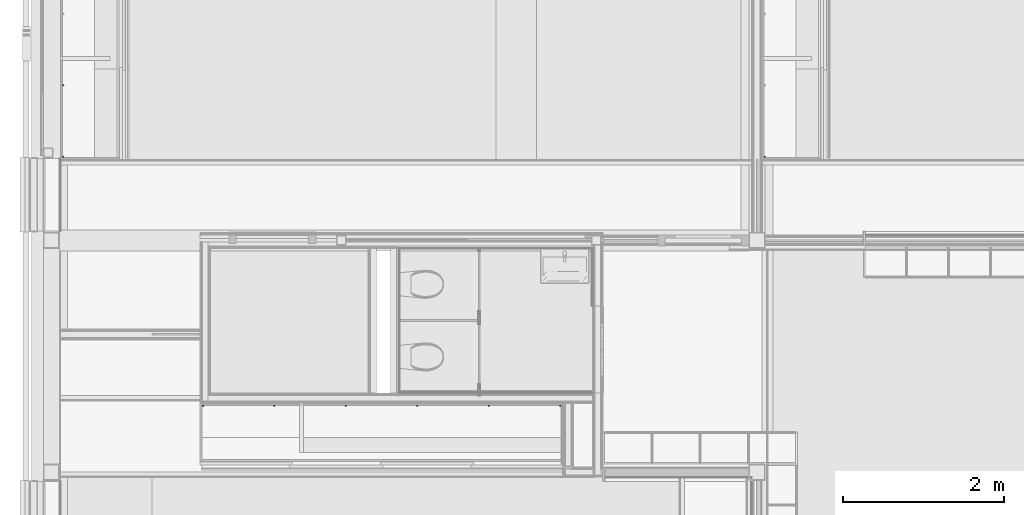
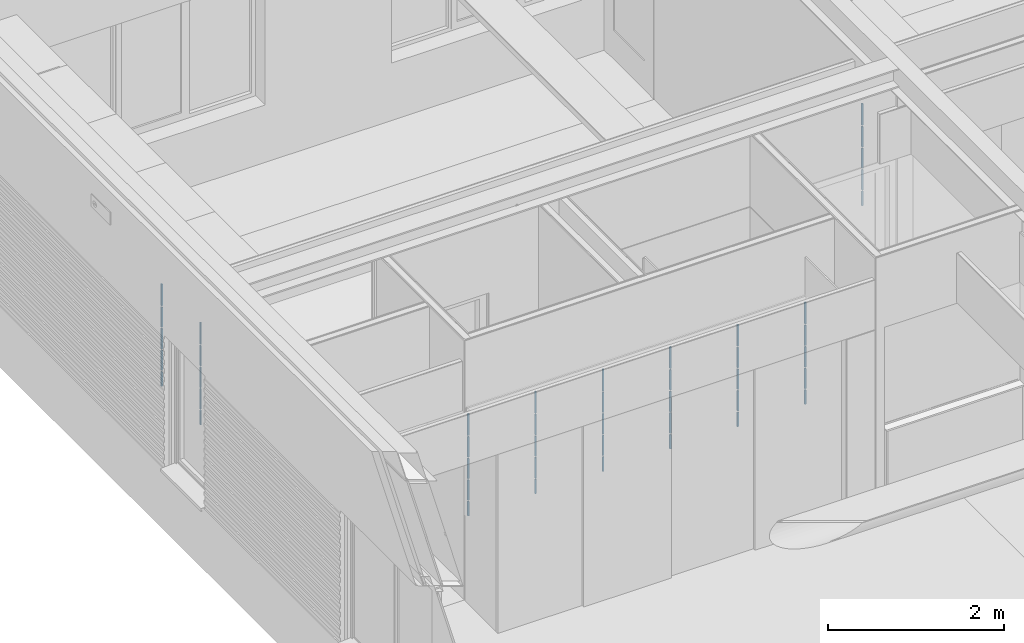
# One storey, part 8 of 137: 9 columns.
"""IFC2X3 building model written with IfcOpenShell, lengths in millimetres."""

from ifc_helpers import new_model, entity, si_unit, converted_unit, derived_unit, money_unit, direction, frame, origin_with_axes, place, context, subcontext, project, spatial, faceted_brep, material, type_object, element, save


model = new_model("IFC2X3")

# Units and contexts
model_context = context("Model", 3, precision=0.01, world=origin_with_axes(), true_north=direction((0.0, 1.0)))
body_context = subcontext(model_context, "Body", "Model", "MODEL_VIEW")
ifc_project = project(units=[si_unit("LENGTHUNIT", "METRE", prefix="MILLI"), si_unit("AREAUNIT", "SQUARE_METRE"), si_unit("VOLUMEUNIT", "CUBIC_METRE"), converted_unit("PLANEANGLEUNIT", "DEGREE", entity("IfcPlaneAngleMeasure", 0.0174532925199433), si_unit("PLANEANGLEUNIT", "RADIAN"), dimensions=[0, 0, 0, 0, 0, 0, 0]), money_unit("EUR"), converted_unit("TIMEUNIT", "Year", entity("IfcTimeMeasure", 31556926.0), si_unit("TIMEUNIT", "SECOND"), dimensions=[0, 0, 1, 0, 0, 0, 0]), si_unit("MASSUNIT", "GRAM", prefix="KILO"), si_unit("THERMODYNAMICTEMPERATUREUNIT", "DEGREE_CELSIUS"), si_unit("LUMINOUSINTENSITYUNIT", "LUMEN"), si_unit("ENERGYUNIT", "JOULE", prefix="MEGA"), derived_unit("THERMALCONDUCTANCEUNIT", [(si_unit("POWERUNIT", "WATT"), 1), (si_unit("LENGTHUNIT", "METRE"), -1), (si_unit("THERMODYNAMICTEMPERATUREUNIT", "KELVIN"), -1)]), derived_unit("SPECIFICHEATCAPACITYUNIT", [(si_unit("ENERGYUNIT", "JOULE"), 1), (si_unit("MASSUNIT", "GRAM", prefix="KILO"), -1), (si_unit("THERMODYNAMICTEMPERATUREUNIT", "KELVIN"), -1)]), derived_unit("MASSDENSITYUNIT", [(si_unit("MASSUNIT", "GRAM", prefix="KILO"), 1), (si_unit("VOLUMEUNIT", "CUBIC_METRE"), -1)])], contexts=[model_context])

# Site, building, storey
site_placement = place(None, origin_with_axes())
site = spatial("IfcSite", under=ifc_project, at=site_placement, Name="Site", CompositionType="ELEMENT")
building_placement = place(site_placement, origin_with_axes())
building = spatial("IfcBuilding", under=site, at=building_placement, Name="Naam gebouw", CompositionType="ELEMENT")
storey_placement = place(building_placement, frame((0.0, 0.0, 3960.0), z_axis=(0.0, 0.0, 1.0), x_axis=(1.0, 0.0, 0.0)))
storey = spatial("IfcBuildingStorey", under=building, at=storey_placement, Name="1e verdieping", CompositionType="ELEMENT", Elevation=3960.0)

# Columns
ifc_material = material(Name="ALG - ALGEMEEN")
column_type = type_object("IfcColumnType", Name="ALG - ALGEMEEN 20 x 20", PredefinedType="COLUMN")
column_1_placement = place(storey_placement, frame((8942.500000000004, 23362.99984707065, 1182.0), z_axis=(0.0, 0.0, 1.0), x_axis=(1.0, 0.0, 0.0)))
element("IfcColumn", 1, at=column_1_placement, inside=storey, type_object=column_type, material=ifc_material, Name="28_Kolom-x", ObjectType="COLUMN", context=body_context, shape_type="Brep", body=[
    faceted_brep([(-8.000000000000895, 9.99999999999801, 0.0), (-8.000000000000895, 9.99999999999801, 198.0000000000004), (9.999999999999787, 9.99999999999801, 198.0000000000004), (9.999999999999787, 9.99999999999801, 0.0), (-8.000000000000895, -10.00000000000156, 0.0), (-8.000000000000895, -10.00000000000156, 198.0000000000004), (9.999999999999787, -10.00000000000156, 198.0000000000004), (9.999999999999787, -10.00000000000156, 0.0)], [[[0, 1, 2, 3]], [[4, 5, 1, 0]], [[5, 6, 2, 1]], [[3, 2, 6, 7]], [[3, 7, 4, 0]], [[7, 6, 5, 4]]]),
    faceted_brep([(9.999999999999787, -10.00000000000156, 1418.000000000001), (9.999999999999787, -10.00000000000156, 1118.0), (9.999999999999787, 9.99999999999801, 1118.0), (9.999999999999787, 9.99999999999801, 1418.000000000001), (-8.000000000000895, -10.00000000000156, 1418.000000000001), (-8.000000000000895, -10.00000000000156, 1118.0), (-8.000000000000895, 9.99999999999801, 1118.0), (-8.000000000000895, 9.99999999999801, 1418.000000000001)], [[[0, 1, 2, 3]], [[4, 5, 1, 0]], [[5, 6, 2, 1]], [[3, 2, 6, 7]], [[0, 3, 7, 4]], [[7, 6, 5, 4]]]),
    faceted_brep([(9.999999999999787, -10.00000000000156, 1098.000000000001), (9.999999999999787, -10.00000000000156, 818.0000000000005), (9.999999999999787, 9.99999999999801, 818.0000000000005), (9.999999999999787, 9.99999999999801, 1098.000000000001), (-8.000000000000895, -10.00000000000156, 1098.000000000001), (-8.000000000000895, -10.00000000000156, 818.0000000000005), (-8.000000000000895, 9.99999999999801, 818.0000000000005), (-8.000000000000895, 9.99999999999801, 1098.000000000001)], [[[0, 1, 2, 3]], [[4, 5, 1, 0]], [[5, 6, 2, 1]], [[3, 2, 6, 7]], [[4, 0, 3, 7]], [[7, 6, 5, 4]]]),
    faceted_brep([(9.999999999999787, -10.00000000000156, 798.0000000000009), (9.999999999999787, -10.00000000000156, 518.0000000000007), (9.999999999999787, 9.99999999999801, 518.0000000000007), (9.999999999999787, 9.99999999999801, 798.0000000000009), (-8.000000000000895, -10.00000000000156, 798.0000000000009), (-8.000000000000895, -10.00000000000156, 518.0000000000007), (-8.000000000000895, 9.99999999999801, 518.0000000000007), (-8.000000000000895, 9.99999999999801, 798.0000000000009)], [[[0, 1, 2, 3]], [[4, 5, 1, 0]], [[5, 6, 2, 1]], [[3, 2, 6, 7]], [[4, 0, 3, 7]], [[7, 6, 5, 4]]]),
    faceted_brep([(9.999999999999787, -10.00000000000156, 498.0000000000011), (9.999999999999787, -10.00000000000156, 218.0), (9.999999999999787, 9.99999999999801, 218.0), (9.999999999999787, 9.99999999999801, 498.0000000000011), (-8.000000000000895, -10.00000000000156, 498.0000000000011), (-8.000000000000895, -10.00000000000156, 218.0), (-8.000000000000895, 9.99999999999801, 218.0), (-8.000000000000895, 9.99999999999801, 498.0000000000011)], [[[0, 1, 2, 3]], [[4, 5, 1, 0]], [[5, 6, 2, 1]], [[3, 2, 6, 7]], [[4, 0, 3, 7]], [[7, 6, 5, 4]]]),
])
column_2_placement = place(storey_placement, frame((244.0000000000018, 23362.99984707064, 1182.0), z_axis=(0.0, 0.0, 1.0), x_axis=(1.0, 0.0, 0.0)))
element("IfcColumn", 2, at=column_2_placement, inside=storey, type_object=column_type, material=ifc_material, Name="28_Kolom-x", ObjectType="COLUMN", context=body_context, shape_type="Brep", body=[
    faceted_brep([(-8.000000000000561, 9.99999999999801, 0.0), (-8.000000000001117, 9.99999999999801, 198.0000000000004), (10.00000000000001, 9.99999999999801, 198.0000000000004), (10.00000000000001, 9.99999999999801, 0.0), (-8.000000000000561, -10.00000000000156, 0.0), (-8.000000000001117, -10.00000000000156, 198.0000000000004), (10.00000000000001, -10.00000000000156, 198.0000000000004), (10.00000000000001, -10.00000000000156, 0.0)], [[[0, 1, 2, 3]], [[4, 5, 1, 0]], [[5, 6, 2, 1]], [[3, 2, 6, 7]], [[3, 7, 4, 0]], [[7, 6, 5, 4]]]),
    faceted_brep([(10.00000000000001, -10.00000000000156, 1418.000000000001), (10.00000000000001, -10.00000000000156, 1118.0), (10.00000000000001, 9.99999999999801, 1118.0), (10.00000000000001, 9.99999999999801, 1418.000000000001), (-8.000000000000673, -10.00000000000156, 1418.000000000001), (-8.000000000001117, -10.00000000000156, 1118.0), (-8.000000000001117, 9.99999999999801, 1118.0), (-8.000000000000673, 9.99999999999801, 1418.000000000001)], [[[0, 1, 2, 3]], [[4, 5, 1, 0]], [[5, 6, 2, 1]], [[3, 2, 6, 7]], [[0, 3, 7, 4]], [[7, 6, 5, 4]]]),
    faceted_brep([(10.00000000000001, -10.00000000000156, 1098.000000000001), (10.00000000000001, -10.00000000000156, 818.0000000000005), (10.00000000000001, 9.99999999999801, 818.0000000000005), (10.00000000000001, 9.99999999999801, 1098.000000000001), (-8.000000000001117, -10.00000000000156, 1098.000000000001), (-8.000000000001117, -10.00000000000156, 818.0000000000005), (-8.000000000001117, 9.99999999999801, 818.0000000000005), (-8.000000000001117, 9.99999999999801, 1098.000000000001)], [[[0, 1, 2, 3]], [[4, 5, 1, 0]], [[5, 6, 2, 1]], [[3, 2, 6, 7]], [[4, 0, 3, 7]], [[7, 6, 5, 4]]]),
    faceted_brep([(10.00000000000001, -10.00000000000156, 798.0000000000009), (10.00000000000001, -10.00000000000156, 518.0000000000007), (10.00000000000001, 9.99999999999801, 518.0000000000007), (10.00000000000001, 9.99999999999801, 798.0000000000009), (-8.000000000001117, -10.00000000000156, 798.0000000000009), (-8.000000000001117, -10.00000000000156, 518.0000000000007), (-8.000000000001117, 9.99999999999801, 518.0000000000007), (-8.000000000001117, 9.99999999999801, 798.0000000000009)], [[[0, 1, 2, 3]], [[4, 5, 1, 0]], [[5, 6, 2, 1]], [[3, 2, 6, 7]], [[4, 0, 3, 7]], [[7, 6, 5, 4]]]),
    faceted_brep([(10.00000000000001, -10.00000000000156, 498.0000000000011), (10.00000000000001, -10.00000000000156, 218.0), (10.00000000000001, 9.99999999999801, 218.0), (10.00000000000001, 9.99999999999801, 498.0000000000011), (-8.000000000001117, -10.00000000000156, 498.0000000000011), (-8.000000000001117, -10.00000000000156, 218.0), (-8.000000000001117, 9.99999999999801, 218.0), (-8.000000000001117, 9.99999999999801, 498.0000000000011)], [[[0, 1, 2, 3]], [[4, 5, 1, 0]], [[5, 6, 2, 1]], [[3, 2, 6, 7]], [[4, 0, 3, 7]], [[7, 6, 5, 4]]]),
])
column_3_placement = place(storey_placement, frame((244.0000000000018, 24248.99984707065, 1182.0), z_axis=(0.0, 0.0, 1.0), x_axis=(1.0, 0.0, 0.0)))
element("IfcColumn", 3, at=column_3_placement, inside=storey, type_object=column_type, material=ifc_material, Name="28_Kolom-x", ObjectType="COLUMN", context=body_context, shape_type="Brep", body=[
    faceted_brep([(-8.00000000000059, 9.99999999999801, 0.0), (-8.000000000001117, 9.99999999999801, 198.0000000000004), (10.00000000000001, 9.99999999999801, 198.0000000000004), (10.00000000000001, 9.99999999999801, 0.0), (-8.00000000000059, -10.00000000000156, 0.0), (-8.000000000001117, -10.00000000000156, 198.0000000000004), (10.00000000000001, -10.00000000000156, 198.0000000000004), (10.00000000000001, -10.00000000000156, 0.0)], [[[0, 1, 2, 3]], [[4, 5, 1, 0]], [[5, 6, 2, 1]], [[3, 2, 6, 7]], [[3, 7, 4, 0]], [[7, 6, 5, 4]]]),
    faceted_brep([(10.00000000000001, -10.00000000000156, 1418.000000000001), (10.00000000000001, -10.00000000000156, 1118.0), (10.00000000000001, 9.99999999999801, 1118.0), (10.00000000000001, 9.99999999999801, 1418.000000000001), (-8.000000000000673, -10.00000000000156, 1418.000000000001), (-8.000000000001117, -10.00000000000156, 1118.0), (-8.000000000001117, 9.99999999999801, 1118.0), (-8.000000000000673, 9.99999999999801, 1418.000000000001)], [[[0, 1, 2, 3]], [[4, 5, 1, 0]], [[5, 6, 2, 1]], [[3, 2, 6, 7]], [[0, 3, 7, 4]], [[7, 6, 5, 4]]]),
    faceted_brep([(10.00000000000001, -10.00000000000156, 1098.000000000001), (10.00000000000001, -10.00000000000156, 818.0000000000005), (10.00000000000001, 9.99999999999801, 818.0000000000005), (10.00000000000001, 9.99999999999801, 1098.000000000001), (-8.000000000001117, -10.00000000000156, 1098.000000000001), (-8.000000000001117, -10.00000000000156, 818.0000000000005), (-8.000000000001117, 9.99999999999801, 818.0000000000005), (-8.000000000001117, 9.99999999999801, 1098.000000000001)], [[[0, 1, 2, 3]], [[4, 5, 1, 0]], [[5, 6, 2, 1]], [[3, 2, 6, 7]], [[4, 0, 3, 7]], [[7, 6, 5, 4]]]),
    faceted_brep([(10.00000000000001, -10.00000000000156, 798.0000000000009), (10.00000000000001, -10.00000000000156, 518.0000000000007), (10.00000000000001, 9.99999999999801, 518.0000000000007), (10.00000000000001, 9.99999999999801, 798.0000000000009), (-8.000000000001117, -10.00000000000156, 798.0000000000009), (-8.000000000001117, -10.00000000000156, 518.0000000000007), (-8.000000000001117, 9.99999999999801, 518.0000000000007), (-8.000000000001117, 9.99999999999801, 798.0000000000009)], [[[0, 1, 2, 3]], [[4, 5, 1, 0]], [[5, 6, 2, 1]], [[3, 2, 6, 7]], [[4, 0, 3, 7]], [[7, 6, 5, 4]]]),
    faceted_brep([(10.00000000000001, -10.00000000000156, 498.0000000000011), (10.00000000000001, -10.00000000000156, 218.0), (10.00000000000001, 9.99999999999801, 218.0), (10.00000000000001, 9.99999999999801, 498.0000000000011), (-8.000000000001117, -10.00000000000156, 498.0000000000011), (-8.000000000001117, -10.00000000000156, 218.0), (-8.000000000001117, 9.99999999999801, 218.0), (-8.000000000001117, 9.99999999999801, 498.0000000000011)], [[[0, 1, 2, 3]], [[4, 5, 1, 0]], [[5, 6, 2, 1]], [[3, 2, 6, 7]], [[4, 0, 3, 7]], [[7, 6, 5, 4]]]),
])
column_4_placement = place(storey_placement, frame((3751.000000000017, 20274.97621406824, 1182.0), z_axis=(0.0, 0.0, 1.0), x_axis=(0.0, -1.0, 0.0)))
element("IfcColumn", 4, at=column_4_placement, inside=storey, type_object=column_type, material=ifc_material, Name="28_Kolom-x", ObjectType="COLUMN", context=body_context, shape_type="Brep", body=[
    faceted_brep([(-8.000000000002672, -9.999999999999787, 0.0), (-8.000000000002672, -9.999999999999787, 198.0000000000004), (-8.000000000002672, 10.00000000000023, 198.0000000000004), (-8.000000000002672, 10.00000000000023, 0.0), (9.99999999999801, -9.999999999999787, 0.0), (9.99999999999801, -9.999999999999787, 198.0000000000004), (9.99999999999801, 10.00000000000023, 198.0000000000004), (9.99999999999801, 10.00000000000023, 0.0)], [[[0, 1, 2, 3]], [[4, 5, 1, 0]], [[5, 6, 2, 1]], [[3, 2, 6, 7]], [[7, 4, 0, 3]], [[7, 6, 5, 4]]]),
    faceted_brep([(9.99999999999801, 10.00000000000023, 1418.000000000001), (9.99999999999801, 10.00000000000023, 1118.0), (-8.000000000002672, 10.00000000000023, 1118.0), (-8.000000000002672, 10.00000000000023, 1418.000000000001), (9.99999999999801, -9.999999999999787, 1418.000000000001), (9.99999999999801, -9.999999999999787, 1118.0), (-8.000000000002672, -9.999999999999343, 1118.0), (-8.000000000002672, -9.999999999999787, 1418.000000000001)], [[[0, 1, 2, 3]], [[4, 5, 1, 0]], [[5, 6, 2, 1]], [[3, 2, 6, 7]], [[4, 0, 3, 7]], [[7, 6, 5, 4]]]),
    faceted_brep([(9.99999999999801, 10.00000000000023, 1098.000000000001), (9.99999999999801, 10.00000000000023, 818.0000000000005), (-8.000000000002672, 10.00000000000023, 818.0000000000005), (-8.000000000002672, 10.00000000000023, 1098.000000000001), (9.99999999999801, -9.999999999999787, 1098.000000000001), (9.99999999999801, -9.999999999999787, 818.0000000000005), (-8.000000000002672, -9.999999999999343, 818.0000000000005), (-8.000000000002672, -9.999999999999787, 1098.000000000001)], [[[0, 1, 2, 3]], [[4, 5, 1, 0]], [[5, 6, 2, 1]], [[3, 2, 6, 7]], [[4, 0, 3, 7]], [[7, 6, 5, 4]]]),
    faceted_brep([(9.99999999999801, 10.00000000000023, 798.0000000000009), (9.99999999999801, 10.00000000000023, 518.0000000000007), (-8.000000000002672, 10.00000000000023, 518.0000000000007), (-8.000000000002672, 10.00000000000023, 798.0000000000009), (9.99999999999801, -9.999999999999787, 798.0000000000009), (9.99999999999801, -9.999999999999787, 518.0000000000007), (-8.000000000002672, -9.999999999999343, 518.0000000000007), (-8.000000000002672, -9.999999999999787, 798.0000000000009)], [[[0, 1, 2, 3]], [[4, 5, 1, 0]], [[5, 6, 2, 1]], [[3, 2, 6, 7]], [[4, 0, 3, 7]], [[7, 6, 5, 4]]]),
    faceted_brep([(9.99999999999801, 10.00000000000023, 498.0000000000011), (9.99999999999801, 10.00000000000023, 218.0), (-8.000000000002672, 10.00000000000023, 218.0), (-8.000000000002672, 10.00000000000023, 498.0000000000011), (9.99999999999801, -9.999999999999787, 498.0000000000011), (9.99999999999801, -9.999999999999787, 218.0), (-8.000000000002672, -9.999999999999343, 218.0), (-8.000000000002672, -9.999999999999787, 498.0000000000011)], [[[0, 1, 2, 3]], [[4, 5, 1, 0]], [[5, 6, 2, 1]], [[3, 2, 6, 7]], [[4, 0, 3, 7]], [[7, 6, 5, 4]]]),
])
column_5_placement = place(storey_placement, frame((4637.000000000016, 20274.97621406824, 1182.0), z_axis=(0.0, 0.0, 1.0), x_axis=(0.0, -1.0, 0.0)))
element("IfcColumn", 5, at=column_5_placement, inside=storey, type_object=column_type, material=ifc_material, Name="28_Kolom-x", ObjectType="COLUMN", context=body_context, shape_type="Brep", body=[
    faceted_brep([(-8.000000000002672, -9.999999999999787, 0.0), (-8.000000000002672, -9.999999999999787, 198.0000000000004), (-8.000000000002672, 9.999999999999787, 198.0000000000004), (-8.000000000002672, 9.999999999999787, 0.0), (9.99999999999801, -9.999999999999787, 0.0), (9.99999999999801, -9.999999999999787, 198.0000000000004), (9.99999999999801, 9.999999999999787, 198.0000000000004), (9.99999999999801, 9.999999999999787, 0.0)], [[[0, 1, 2, 3]], [[4, 5, 1, 0]], [[5, 6, 2, 1]], [[3, 2, 6, 7]], [[7, 4, 0, 3]], [[7, 6, 5, 4]]]),
    faceted_brep([(9.99999999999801, 9.999999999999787, 1418.000000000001), (9.99999999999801, 9.999999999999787, 1118.0), (-8.000000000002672, 9.999999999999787, 1118.0), (-8.000000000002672, 9.999999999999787, 1418.000000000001), (9.99999999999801, -9.999999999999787, 1418.000000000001), (9.99999999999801, -9.999999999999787, 1118.0), (-8.000000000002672, -9.999999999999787, 1118.0), (-8.000000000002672, -9.999999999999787, 1418.000000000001)], [[[0, 1, 2, 3]], [[4, 5, 1, 0]], [[5, 6, 2, 1]], [[3, 2, 6, 7]], [[4, 0, 3, 7]], [[7, 6, 5, 4]]]),
    faceted_brep([(9.99999999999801, 9.999999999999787, 1098.000000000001), (9.99999999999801, 9.999999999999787, 818.0000000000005), (-8.000000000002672, 9.999999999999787, 818.0000000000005), (-8.000000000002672, 9.999999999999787, 1098.000000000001), (9.99999999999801, -9.999999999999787, 1098.000000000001), (9.99999999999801, -9.999999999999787, 818.0000000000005), (-8.000000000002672, -9.999999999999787, 818.0000000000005), (-8.000000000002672, -9.999999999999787, 1098.000000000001)], [[[0, 1, 2, 3]], [[4, 5, 1, 0]], [[5, 6, 2, 1]], [[3, 2, 6, 7]], [[4, 0, 3, 7]], [[7, 6, 5, 4]]]),
    faceted_brep([(9.99999999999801, 9.999999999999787, 798.0000000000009), (9.99999999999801, 9.999999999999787, 518.0000000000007), (-8.000000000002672, 9.999999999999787, 518.0000000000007), (-8.000000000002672, 9.999999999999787, 798.0000000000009), (9.99999999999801, -9.999999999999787, 798.0000000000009), (9.99999999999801, -9.999999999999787, 518.0000000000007), (-8.000000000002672, -9.999999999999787, 518.0000000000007), (-8.000000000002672, -9.999999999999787, 798.0000000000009)], [[[0, 1, 2, 3]], [[4, 5, 1, 0]], [[5, 6, 2, 1]], [[3, 2, 6, 7]], [[4, 0, 3, 7]], [[7, 6, 5, 4]]]),
    faceted_brep([(9.99999999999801, 9.999999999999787, 498.0000000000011), (9.99999999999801, 9.999999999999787, 218.0), (-8.000000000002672, 9.999999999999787, 218.0), (-8.000000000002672, 9.999999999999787, 498.0000000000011), (9.99999999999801, -9.999999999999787, 498.0000000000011), (9.99999999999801, -9.999999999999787, 218.0), (-8.000000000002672, -9.999999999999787, 218.0), (-8.000000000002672, -9.999999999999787, 498.0000000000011)], [[[0, 1, 2, 3]], [[4, 5, 1, 0]], [[5, 6, 2, 1]], [[3, 2, 6, 7]], [[4, 0, 3, 7]], [[7, 6, 5, 4]]]),
])
column_6_placement = place(storey_placement, frame((5523.000000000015, 20274.97621406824, 1182.0), z_axis=(0.0, 0.0, 1.0), x_axis=(0.0, -1.0, 0.0)))
element("IfcColumn", 6, at=column_6_placement, inside=storey, type_object=column_type, material=ifc_material, Name="28_Kolom-x", ObjectType="COLUMN", context=body_context, shape_type="Brep", body=[
    faceted_brep([(-8.000000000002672, -9.999999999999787, 0.0), (-8.000000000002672, -9.999999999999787, 198.0000000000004), (-8.000000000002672, 9.999999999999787, 198.0000000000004), (-8.000000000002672, 9.999999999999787, 0.0), (9.99999999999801, -9.999999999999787, 0.0), (9.99999999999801, -9.999999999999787, 198.0000000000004), (9.99999999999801, 9.999999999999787, 198.0000000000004), (9.99999999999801, 9.999999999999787, 0.0)], [[[0, 1, 2, 3]], [[4, 5, 1, 0]], [[5, 6, 2, 1]], [[3, 2, 6, 7]], [[7, 4, 0, 3]], [[7, 6, 5, 4]]]),
    faceted_brep([(9.99999999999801, 9.999999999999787, 1418.000000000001), (9.99999999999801, 9.999999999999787, 1118.0), (-8.000000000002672, 9.999999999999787, 1118.0), (-8.000000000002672, 9.999999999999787, 1418.000000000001), (9.99999999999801, -9.999999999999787, 1418.000000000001), (9.99999999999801, -9.999999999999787, 1118.0), (-8.000000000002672, -9.999999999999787, 1118.0), (-8.000000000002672, -9.999999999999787, 1418.000000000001)], [[[0, 1, 2, 3]], [[4, 5, 1, 0]], [[5, 6, 2, 1]], [[3, 2, 6, 7]], [[4, 0, 3, 7]], [[7, 6, 5, 4]]]),
    faceted_brep([(9.99999999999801, 9.999999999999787, 1098.000000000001), (9.99999999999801, 9.999999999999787, 818.0000000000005), (-8.000000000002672, 9.999999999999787, 818.0000000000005), (-8.000000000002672, 9.999999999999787, 1098.000000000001), (9.99999999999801, -9.999999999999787, 1098.000000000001), (9.99999999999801, -9.999999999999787, 818.0000000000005), (-8.000000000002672, -9.999999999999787, 818.0000000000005), (-8.000000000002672, -9.999999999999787, 1098.000000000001)], [[[0, 1, 2, 3]], [[4, 5, 1, 0]], [[5, 6, 2, 1]], [[3, 2, 6, 7]], [[4, 0, 3, 7]], [[7, 6, 5, 4]]]),
    faceted_brep([(9.99999999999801, 9.999999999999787, 798.0000000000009), (9.99999999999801, 9.999999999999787, 518.0000000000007), (-8.000000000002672, 9.999999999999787, 518.0000000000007), (-8.000000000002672, 9.999999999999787, 798.0000000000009), (9.99999999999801, -9.999999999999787, 798.0000000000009), (9.99999999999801, -9.999999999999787, 518.0000000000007), (-8.000000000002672, -9.999999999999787, 518.0000000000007), (-8.000000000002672, -9.999999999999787, 798.0000000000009)], [[[0, 1, 2, 3]], [[4, 5, 1, 0]], [[5, 6, 2, 1]], [[3, 2, 6, 7]], [[4, 0, 3, 7]], [[7, 6, 5, 4]]]),
    faceted_brep([(9.99999999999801, 9.999999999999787, 498.0000000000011), (9.99999999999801, 9.999999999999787, 218.0), (-8.000000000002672, 9.999999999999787, 218.0), (-8.000000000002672, 9.999999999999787, 498.0000000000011), (9.99999999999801, -9.999999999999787, 498.0000000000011), (9.99999999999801, -9.999999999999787, 218.0), (-8.000000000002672, -9.999999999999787, 218.0), (-8.000000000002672, -9.999999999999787, 498.0000000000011)], [[[0, 1, 2, 3]], [[4, 5, 1, 0]], [[5, 6, 2, 1]], [[3, 2, 6, 7]], [[4, 0, 3, 7]], [[7, 6, 5, 4]]]),
])
column_7_placement = place(storey_placement, frame((1979.000000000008, 20274.97621406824, 1182.0), z_axis=(0.0, 0.0, 1.0), x_axis=(0.0, -1.0, 0.0)))
element("IfcColumn", 7, at=column_7_placement, inside=storey, type_object=column_type, material=ifc_material, Name="28_Kolom-x", ObjectType="COLUMN", context=body_context, shape_type="Brep", body=[
    faceted_brep([(-8.000000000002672, -10.00000000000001, 0.0), (-8.000000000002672, -10.00000000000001, 198.0000000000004), (-8.000000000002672, 10.00000000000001, 198.0000000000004), (-8.000000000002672, 10.00000000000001, 0.0), (9.99999999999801, -10.00000000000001, 0.0), (9.99999999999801, -10.00000000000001, 198.0000000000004), (9.99999999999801, 10.00000000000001, 198.0000000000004), (9.99999999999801, 10.00000000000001, 0.0)], [[[0, 1, 2, 3]], [[4, 5, 1, 0]], [[5, 6, 2, 1]], [[3, 2, 6, 7]], [[7, 4, 0, 3]], [[7, 6, 5, 4]]]),
    faceted_brep([(9.99999999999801, 10.00000000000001, 1418.000000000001), (9.99999999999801, 10.00000000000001, 1118.0), (-8.000000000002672, 9.999999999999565, 1118.0), (-8.000000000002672, 10.00000000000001, 1418.000000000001), (9.99999999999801, -10.00000000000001, 1418.000000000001), (9.99999999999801, -10.00000000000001, 1118.0), (-8.000000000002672, -10.00000000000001, 1118.0), (-8.000000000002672, -10.00000000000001, 1418.000000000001)], [[[0, 1, 2, 3]], [[4, 5, 1, 0]], [[5, 6, 2, 1]], [[3, 2, 6, 7]], [[4, 0, 3, 7]], [[7, 6, 5, 4]]]),
    faceted_brep([(9.99999999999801, 10.00000000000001, 1098.000000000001), (9.99999999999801, 10.00000000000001, 818.0000000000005), (-8.000000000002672, 9.999999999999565, 818.0000000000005), (-8.000000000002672, 10.00000000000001, 1098.000000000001), (9.99999999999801, -10.00000000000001, 1098.000000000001), (9.99999999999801, -10.00000000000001, 818.0000000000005), (-8.000000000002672, -10.00000000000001, 818.0000000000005), (-8.000000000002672, -10.00000000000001, 1098.000000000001)], [[[0, 1, 2, 3]], [[4, 5, 1, 0]], [[5, 6, 2, 1]], [[3, 2, 6, 7]], [[4, 0, 3, 7]], [[7, 6, 5, 4]]]),
    faceted_brep([(9.99999999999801, 10.00000000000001, 798.0000000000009), (9.99999999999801, 10.00000000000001, 518.0000000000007), (-8.000000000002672, 9.999999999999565, 518.0000000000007), (-8.000000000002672, 10.00000000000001, 798.0000000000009), (9.99999999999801, -10.00000000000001, 798.0000000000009), (9.99999999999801, -10.00000000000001, 518.0000000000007), (-8.000000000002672, -10.00000000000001, 518.0000000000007), (-8.000000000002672, -10.00000000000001, 798.0000000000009)], [[[0, 1, 2, 3]], [[4, 5, 1, 0]], [[5, 6, 2, 1]], [[3, 2, 6, 7]], [[4, 0, 3, 7]], [[7, 6, 5, 4]]]),
    faceted_brep([(9.99999999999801, 10.00000000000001, 498.0000000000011), (9.99999999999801, 10.00000000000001, 218.0), (-8.000000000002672, 9.999999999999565, 218.0), (-8.000000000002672, 10.00000000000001, 498.0000000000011), (9.99999999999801, -10.00000000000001, 498.0000000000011), (9.99999999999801, -10.00000000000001, 218.0), (-8.000000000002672, -10.00000000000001, 218.0), (-8.000000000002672, -10.00000000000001, 498.0000000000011)], [[[0, 1, 2, 3]], [[4, 5, 1, 0]], [[5, 6, 2, 1]], [[3, 2, 6, 7]], [[4, 0, 3, 7]], [[7, 6, 5, 4]]]),
])
column_8_placement = place(storey_placement, frame((6409.000000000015, 20274.97621406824, 1182.0), z_axis=(0.0, 0.0, 1.0), x_axis=(0.0, -1.0, 0.0)))
element("IfcColumn", 8, at=column_8_placement, inside=storey, type_object=column_type, material=ifc_material, Name="28_Kolom-x", ObjectType="COLUMN", context=body_context, shape_type="Brep", body=[
    faceted_brep([(-8.000000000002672, -9.999999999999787, 0.0), (-8.000000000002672, -9.999999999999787, 198.0000000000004), (-8.000000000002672, 9.999999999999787, 198.0000000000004), (-8.000000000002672, 9.999999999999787, 0.0), (9.99999999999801, -9.999999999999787, 0.0), (9.99999999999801, -9.999999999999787, 198.0000000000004), (9.99999999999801, 9.999999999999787, 198.0000000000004), (9.99999999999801, 9.999999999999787, 0.0)], [[[0, 1, 2, 3]], [[4, 5, 1, 0]], [[5, 6, 2, 1]], [[3, 2, 6, 7]], [[7, 4, 0, 3]], [[7, 6, 5, 4]]]),
    faceted_brep([(9.99999999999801, 9.999999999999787, 1418.000000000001), (9.99999999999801, 9.999999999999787, 1118.0), (-8.000000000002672, 9.999999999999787, 1118.0), (-8.000000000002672, 9.999999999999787, 1418.000000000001), (9.99999999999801, -9.999999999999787, 1418.000000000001), (9.99999999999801, -9.999999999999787, 1118.0), (-8.000000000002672, -9.999999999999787, 1118.0), (-8.000000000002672, -9.999999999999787, 1418.000000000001)], [[[0, 1, 2, 3]], [[4, 5, 1, 0]], [[5, 6, 2, 1]], [[3, 2, 6, 7]], [[4, 0, 3, 7]], [[7, 6, 5, 4]]]),
    faceted_brep([(9.99999999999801, 9.999999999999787, 1098.000000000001), (9.99999999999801, 9.999999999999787, 818.0000000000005), (-8.000000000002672, 9.999999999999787, 818.0000000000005), (-8.000000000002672, 9.999999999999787, 1098.000000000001), (9.99999999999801, -9.999999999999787, 1098.000000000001), (9.99999999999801, -9.999999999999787, 818.0000000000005), (-8.000000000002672, -9.999999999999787, 818.0000000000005), (-8.000000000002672, -9.999999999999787, 1098.000000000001)], [[[0, 1, 2, 3]], [[4, 5, 1, 0]], [[5, 6, 2, 1]], [[3, 2, 6, 7]], [[4, 0, 3, 7]], [[7, 6, 5, 4]]]),
    faceted_brep([(9.99999999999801, 9.999999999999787, 798.0000000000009), (9.99999999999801, 9.999999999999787, 518.0000000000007), (-8.000000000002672, 9.999999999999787, 518.0000000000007), (-8.000000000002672, 9.999999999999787, 798.0000000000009), (9.99999999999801, -9.999999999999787, 798.0000000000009), (9.99999999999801, -9.999999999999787, 518.0000000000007), (-8.000000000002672, -9.999999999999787, 518.0000000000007), (-8.000000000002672, -9.999999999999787, 798.0000000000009)], [[[0, 1, 2, 3]], [[4, 5, 1, 0]], [[5, 6, 2, 1]], [[3, 2, 6, 7]], [[4, 0, 3, 7]], [[7, 6, 5, 4]]]),
    faceted_brep([(9.99999999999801, 9.999999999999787, 498.0000000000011), (9.99999999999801, 9.999999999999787, 218.0), (-8.000000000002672, 9.999999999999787, 218.0), (-8.000000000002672, 9.999999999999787, 498.0000000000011), (9.99999999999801, -9.999999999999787, 498.0000000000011), (9.99999999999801, -9.999999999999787, 218.0), (-8.000000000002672, -9.999999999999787, 218.0), (-8.000000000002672, -9.999999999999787, 498.0000000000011)], [[[0, 1, 2, 3]], [[4, 5, 1, 0]], [[5, 6, 2, 1]], [[3, 2, 6, 7]], [[4, 0, 3, 7]], [[7, 6, 5, 4]]]),
])
column_9_placement = place(storey_placement, frame((2865.000000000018, 20274.97621406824, 1182.0), z_axis=(0.0, 0.0, 1.0), x_axis=(0.0, -1.0, 0.0)))
element("IfcColumn", 9, at=column_9_placement, inside=storey, type_object=column_type, material=ifc_material, Name="28_Kolom-x", ObjectType="COLUMN", context=body_context, shape_type="Brep", body=[
    faceted_brep([(-8.000000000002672, -9.999999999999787, 0.0), (-8.000000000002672, -9.999999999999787, 198.0000000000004), (-8.000000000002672, 10.00000000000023, 198.0000000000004), (-8.000000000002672, 10.00000000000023, 0.0), (9.99999999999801, -9.999999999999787, 0.0), (9.99999999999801, -9.999999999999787, 198.0000000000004), (9.99999999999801, 10.00000000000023, 198.0000000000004), (9.99999999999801, 10.00000000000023, 0.0)], [[[0, 1, 2, 3]], [[4, 5, 1, 0]], [[5, 6, 2, 1]], [[3, 2, 6, 7]], [[7, 4, 0, 3]], [[7, 6, 5, 4]]]),
    faceted_brep([(9.99999999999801, 10.00000000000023, 1418.000000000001), (9.99999999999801, 10.00000000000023, 1118.0), (-8.000000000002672, 9.999999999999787, 1118.0), (-8.000000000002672, 10.00000000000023, 1418.000000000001), (9.99999999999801, -9.999999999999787, 1418.000000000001), (9.99999999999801, -9.999999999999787, 1118.0), (-8.000000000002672, -9.999999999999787, 1118.0), (-8.000000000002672, -9.999999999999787, 1418.000000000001)], [[[0, 1, 2, 3]], [[4, 5, 1, 0]], [[5, 6, 2, 1]], [[3, 2, 6, 7]], [[4, 0, 3, 7]], [[7, 6, 5, 4]]]),
    faceted_brep([(9.99999999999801, 10.00000000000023, 1098.000000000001), (9.99999999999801, 10.00000000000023, 818.0000000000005), (-8.000000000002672, 9.999999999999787, 818.0000000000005), (-8.000000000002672, 10.00000000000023, 1098.000000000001), (9.99999999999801, -9.999999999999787, 1098.000000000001), (9.99999999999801, -9.999999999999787, 818.0000000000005), (-8.000000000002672, -9.999999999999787, 818.0000000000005), (-8.000000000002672, -9.999999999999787, 1098.000000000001)], [[[0, 1, 2, 3]], [[4, 5, 1, 0]], [[5, 6, 2, 1]], [[3, 2, 6, 7]], [[4, 0, 3, 7]], [[7, 6, 5, 4]]]),
    faceted_brep([(9.99999999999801, 10.00000000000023, 798.0000000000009), (9.99999999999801, 10.00000000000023, 518.0000000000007), (-8.000000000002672, 9.999999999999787, 518.0000000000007), (-8.000000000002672, 10.00000000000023, 798.0000000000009), (9.99999999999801, -9.999999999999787, 798.0000000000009), (9.99999999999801, -9.999999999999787, 518.0000000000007), (-8.000000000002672, -9.999999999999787, 518.0000000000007), (-8.000000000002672, -9.999999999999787, 798.0000000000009)], [[[0, 1, 2, 3]], [[4, 5, 1, 0]], [[5, 6, 2, 1]], [[3, 2, 6, 7]], [[4, 0, 3, 7]], [[7, 6, 5, 4]]]),
    faceted_brep([(9.99999999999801, 10.00000000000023, 498.0000000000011), (9.99999999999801, 10.00000000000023, 218.0), (-8.000000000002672, 9.999999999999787, 218.0), (-8.000000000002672, 10.00000000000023, 498.0000000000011), (9.99999999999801, -9.999999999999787, 498.0000000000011), (9.99999999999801, -9.999999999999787, 218.0), (-8.000000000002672, -9.999999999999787, 218.0), (-8.000000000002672, -9.999999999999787, 498.0000000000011)], [[[0, 1, 2, 3]], [[4, 5, 1, 0]], [[5, 6, 2, 1]], [[3, 2, 6, 7]], [[4, 0, 3, 7]], [[7, 6, 5, 4]]]),
])

save(model, "model.ifc")
